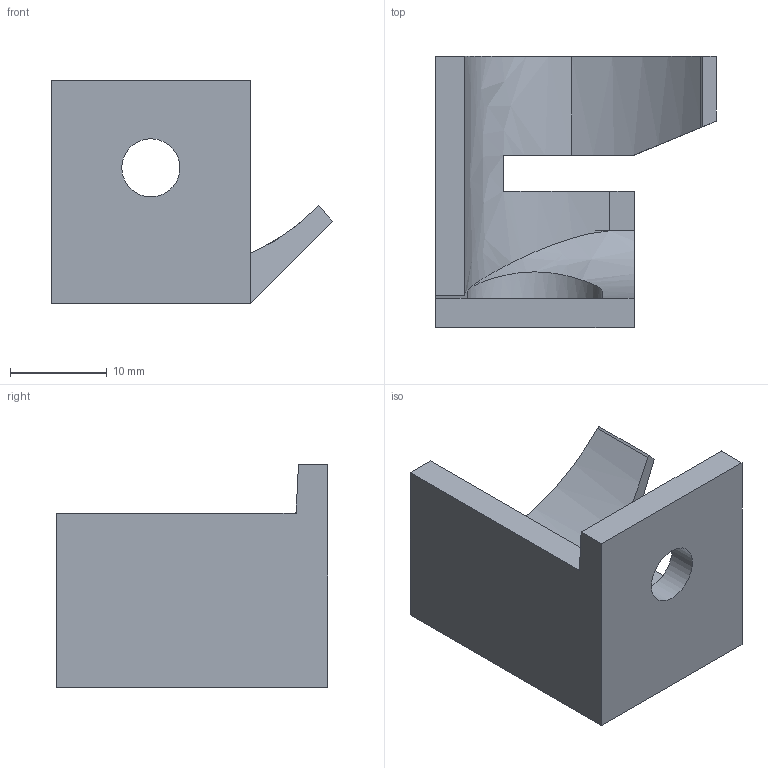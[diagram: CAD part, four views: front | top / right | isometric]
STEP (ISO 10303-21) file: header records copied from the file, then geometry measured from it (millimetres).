
FILE_DESCRIPTION(/* description */ (''),/* implementation_level */ '2;1');
FILE_NAME(/* name */ 'Simson_Schliesshaken.step',/* time_stamp */ '2026-05-04T09:32:16+02:00',/* author */ (''),/* organization */ (''),/* preprocessor_version */ 'ST-DEVELOPER v20.1',/* originating_system */ 'Autodesk Translation Framework v15.8.0.0',/* authorisation */ '');
FILE_SCHEMA (('AUTOMOTIVE_DESIGN { 1 0 10303 214 3 1 1 }'));
Length unit declared in the file: millimetre
Products named in the file (1): Simson_Schliesshaken
Bounding box: 29 x 28 x 23 mm (x, y, z)
Volume: 5225.8 mm3; surface area: 3553.9 mm2
Topology: 1 solids, 2 shells, 35 faces, 99 edges, 64 vertices
Faces by surface type: plane 29, bspline 4, cylinder 2
Full cylindrical faces by diameter (mm): 6 x1
Entity records: 1482 total; most frequent: CARTESIAN_POINT 592, ORIENTED_EDGE 200, DIRECTION 144, EDGE_CURVE 100, LINE 74, VECTOR 74, VERTEX_POINT 64, EDGE_LOOP 37
